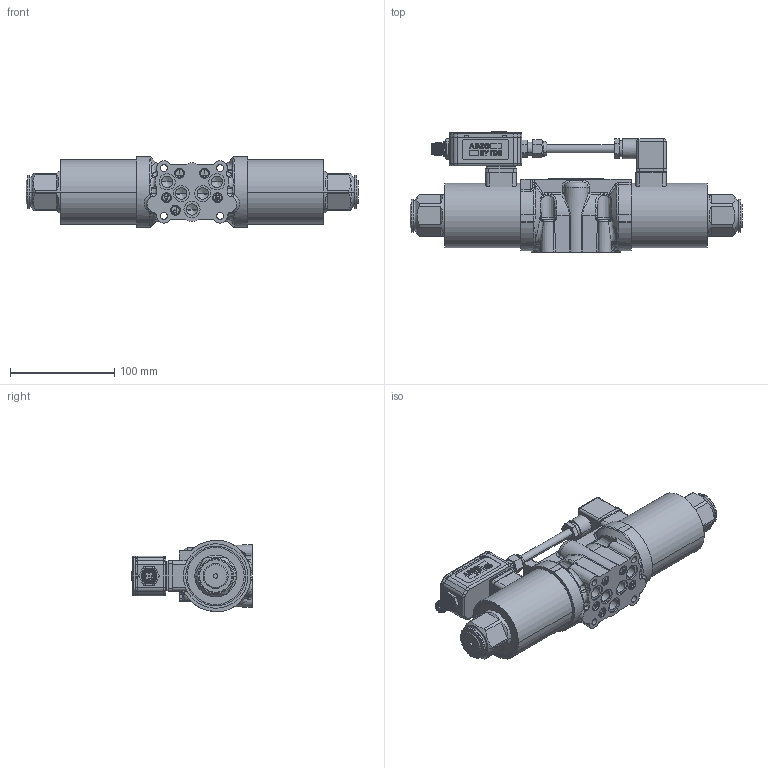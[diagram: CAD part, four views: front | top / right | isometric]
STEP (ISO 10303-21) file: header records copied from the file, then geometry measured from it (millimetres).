
FILE_DESCRIPTION((''),'2;1');
FILE_NAME('PRM6-103_EL7_ASM','2021-07-07T',('l.soukupova'),(''),'PRO/ENGINEER BY PARAMETRIC TECHNOLOGY CORPORATION, 2015440','PRO/ENGINEER BY PARAMETRIC TECHNOLOGY CORPORATION, 2015440','');
FILE_SCHEMA(('AUTOMOTIVE_DESIGN { 1 0 10303 214 1 1 1 1 }'));
Products named in the file (8): RPE4_103Z11_RD_AF0; C31A_E1; PRM6_103Z12_303981_AF0_ASM; MANIFOLD_SOLID_BREP_102592; MANIFOLD_SOLID_BREP_153917; MANIFOLD_SOLID_BREP_154134; EL7_DVOUMAGNET_PRM-10_1_ASM; PRM6-103_EL7_ASM
Assembly tree (8 placements, depth 3):
  PRM6-103_EL7_ASM
    PRM6_103Z12_303981_AF0_ASM
      RPE4_103Z11_RD_AF0
      C31A_E1  x2
    EL7_DVOUMAGNET_PRM-10_1_ASM
      MANIFOLD_SOLID_BREP_102592
      MANIFOLD_SOLID_BREP_153917
      MANIFOLD_SOLID_BREP_154134
Bounding box: 319 x 115.5 x 68.21 mm (x, y, z)
Volume: 881543.5 mm3; surface area: 162983.8 mm2
Topology: 5 solids, 8 shells, 3022 faces, 7995 edges, 5146 vertices
Faces by surface type: plane 1159, cylinder 794, bspline 459, extrusion 233, torus 173, cone 138, sphere 66
Entity records: 199878 total; most frequent: CARTESIAN_POINT 76899, ORIENTED_EDGE 15412, DIRECTION 12709, PRESENTATION_STYLE_ASSIGNMENT 10494, STYLED_ITEM 10395, CURVE_STYLE 8029, EDGE_CURVE 7709, VERTEX_POINT 4905
